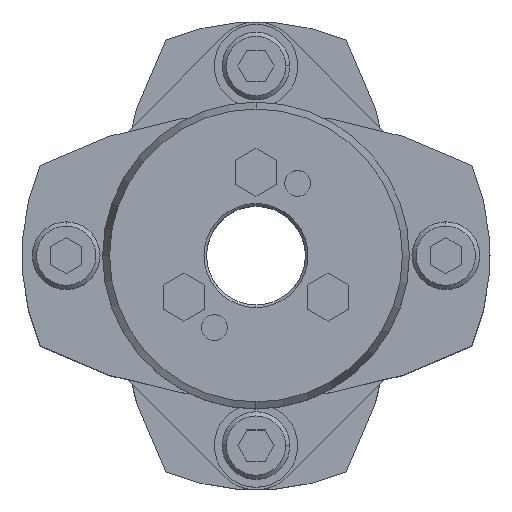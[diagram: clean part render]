
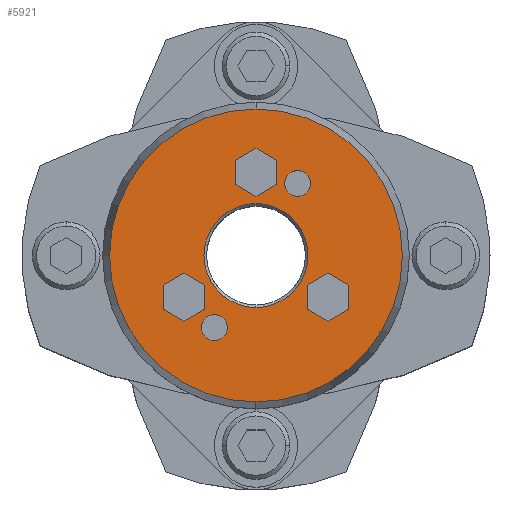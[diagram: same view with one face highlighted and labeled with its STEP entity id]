
A CAD part, top view. The second image highlights one B-rep face of the part: STEP entity #5921.
In plain terms, the highlighted planar face has unit normal (0, 0, 1).
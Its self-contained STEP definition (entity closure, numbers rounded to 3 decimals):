
#1677=CARTESIAN_POINT('',(0.,10.,52.0));
#1678=VERTEX_POINT('',#1677);
#1694=CARTESIAN_POINT('',(0.,-10.,52.0));
#1695=VERTEX_POINT('',#1694);
#1702=CARTESIAN_POINT('',(0.,0.,52.0));
#1703=DIRECTION('',(0.0,0.0,1.0));
#1704=DIRECTION('',(0.0,1.0,0.0));
#1705=AXIS2_PLACEMENT_3D('',#1702,#1703,#1704);
#1706=CIRCLE('',#1705,10.0);
#1707=EDGE_CURVE('',#1695,#1678,#1706,.T.);
#1865=CARTESIAN_POINT('',(0.,-28.16,52.0));
#1866=VERTEX_POINT('',#1865);
#1873=CARTESIAN_POINT('',(0.,28.16,52.0));
#1874=VERTEX_POINT('',#1873);
#1875=CARTESIAN_POINT('',(0.,0.,52.0));
#1876=DIRECTION('',(0.0,0.0,-1.0));
#1877=DIRECTION('',(0.0,-1.0,0.0));
#1878=AXIS2_PLACEMENT_3D('',#1875,#1876,#1877);
#1879=CIRCLE('',#1878,28.16);
#1880=EDGE_CURVE('',#1866,#1874,#1879,.T.);
#2123=CARTESIAN_POINT('',(8.,16.356,52.0));
#2124=VERTEX_POINT('',#2123);
#2140=CARTESIAN_POINT('',(8.,11.356,52.0));
#2141=VERTEX_POINT('',#2140);
#2148=CARTESIAN_POINT('',(8.,13.856,52.0));
#2149=DIRECTION('',(0.0,0.0,-1.0));
#2150=DIRECTION('',(0.0,1.0,0.0));
#2151=AXIS2_PLACEMENT_3D('',#2148,#2149,#2150);
#2152=CIRCLE('',#2151,2.5);
#2153=EDGE_CURVE('',#2124,#2141,#2152,.T.);
#2165=CARTESIAN_POINT('',(-8.,-11.356,52.0));
#2166=VERTEX_POINT('',#2165);
#2182=CARTESIAN_POINT('',(-8.,-16.356,52.0));
#2183=VERTEX_POINT('',#2182);
#2190=CARTESIAN_POINT('',(-8.,-13.856,52.0));
#2191=DIRECTION('',(0.0,0.0,-1.0));
#2192=DIRECTION('',(0.0,1.0,0.0));
#2193=AXIS2_PLACEMENT_3D('',#2190,#2191,#2192);
#2194=CIRCLE('',#2193,2.5);
#2195=EDGE_CURVE('',#2166,#2183,#2194,.T.);
#4437=CARTESIAN_POINT('',(13.856,-3.381,52.0));
#4438=VERTEX_POINT('',#4437);
#4445=CARTESIAN_POINT('',(9.856,-5.691,52.0));
#4446=VERTEX_POINT('',#4445);
#4447=CARTESIAN_POINT('',(9.856,-5.691,52.0));
#4448=DIRECTION('',(0.866,0.5,0.0));
#4449=VECTOR('',#4448,4.619);
#4450=LINE('',#4447,#4449);
#4451=EDGE_CURVE('',#4446,#4438,#4450,.T.);
#4475=CARTESIAN_POINT('',(17.856,-5.691,52.0));
#4476=VERTEX_POINT('',#4475);
#4483=CARTESIAN_POINT('',(13.856,-3.381,52.0));
#4484=DIRECTION('',(0.866,-0.5,0.0));
#4485=VECTOR('',#4484,4.619);
#4486=LINE('',#4483,#4485);
#4487=EDGE_CURVE('',#4438,#4476,#4486,.T.);
#4506=CARTESIAN_POINT('',(17.856,-10.309,52.0));
#4507=VERTEX_POINT('',#4506);
#4514=CARTESIAN_POINT('',(17.856,-5.691,52.0));
#4515=DIRECTION('',(0.0,-1.0,0.0));
#4516=VECTOR('',#4515,4.619);
#4517=LINE('',#4514,#4516);
#4518=EDGE_CURVE('',#4476,#4507,#4517,.T.);
#4537=CARTESIAN_POINT('',(13.856,-12.619,52.0));
#4538=VERTEX_POINT('',#4537);
#4545=CARTESIAN_POINT('',(17.856,-10.309,52.0));
#4546=DIRECTION('',(-0.866,-0.5,0.0));
#4547=VECTOR('',#4546,4.619);
#4548=LINE('',#4545,#4547);
#4549=EDGE_CURVE('',#4507,#4538,#4548,.T.);
#4568=CARTESIAN_POINT('',(9.856,-10.309,52.0));
#4569=VERTEX_POINT('',#4568);
#4576=CARTESIAN_POINT('',(13.856,-12.619,52.0));
#4577=DIRECTION('',(-0.866,0.5,0.0));
#4578=VECTOR('',#4577,4.619);
#4579=LINE('',#4576,#4578);
#4580=EDGE_CURVE('',#4538,#4569,#4579,.T.);
#4598=CARTESIAN_POINT('',(9.856,-10.309,52.0));
#4599=DIRECTION('',(0.0,1.0,0.0));
#4600=VECTOR('',#4599,4.619);
#4601=LINE('',#4598,#4600);
#4602=EDGE_CURVE('',#4569,#4446,#4601,.T.);
#4637=CARTESIAN_POINT('',(0.,20.619,52.0));
#4638=VERTEX_POINT('',#4637);
#4645=CARTESIAN_POINT('',(-4.,18.309,52.0));
#4646=VERTEX_POINT('',#4645);
#4647=CARTESIAN_POINT('',(-4.,18.309,52.0));
#4648=DIRECTION('',(0.866,0.5,0.0));
#4649=VECTOR('',#4648,4.619);
#4650=LINE('',#4647,#4649);
#4651=EDGE_CURVE('',#4646,#4638,#4650,.T.);
#4675=CARTESIAN_POINT('',(4.,18.309,52.0));
#4676=VERTEX_POINT('',#4675);
#4683=CARTESIAN_POINT('',(0.,20.619,52.0));
#4684=DIRECTION('',(0.866,-0.5,0.0));
#4685=VECTOR('',#4684,4.619);
#4686=LINE('',#4683,#4685);
#4687=EDGE_CURVE('',#4638,#4676,#4686,.T.);
#4706=CARTESIAN_POINT('',(4.,13.691,52.0));
#4707=VERTEX_POINT('',#4706);
#4714=CARTESIAN_POINT('',(4.,18.309,52.0));
#4715=DIRECTION('',(0.0,-1.0,0.0));
#4716=VECTOR('',#4715,4.619);
#4717=LINE('',#4714,#4716);
#4718=EDGE_CURVE('',#4676,#4707,#4717,.T.);
#4737=CARTESIAN_POINT('',(0.,11.381,52.0));
#4738=VERTEX_POINT('',#4737);
#4745=CARTESIAN_POINT('',(4.,13.691,52.0));
#4746=DIRECTION('',(-0.866,-0.5,0.0));
#4747=VECTOR('',#4746,4.619);
#4748=LINE('',#4745,#4747);
#4749=EDGE_CURVE('',#4707,#4738,#4748,.T.);
#4768=CARTESIAN_POINT('',(-4.,13.691,52.0));
#4769=VERTEX_POINT('',#4768);
#4776=CARTESIAN_POINT('',(0.,11.381,52.0));
#4777=DIRECTION('',(-0.866,0.5,0.0));
#4778=VECTOR('',#4777,4.619);
#4779=LINE('',#4776,#4778);
#4780=EDGE_CURVE('',#4738,#4769,#4779,.T.);
#4798=CARTESIAN_POINT('',(-4.,13.691,52.0));
#4799=DIRECTION('',(0.0,1.0,0.0));
#4800=VECTOR('',#4799,4.619);
#4801=LINE('',#4798,#4800);
#4802=EDGE_CURVE('',#4769,#4646,#4801,.T.);
#4837=CARTESIAN_POINT('',(-13.856,-3.381,52.0));
#4838=VERTEX_POINT('',#4837);
#4845=CARTESIAN_POINT('',(-17.856,-5.691,52.0));
#4846=VERTEX_POINT('',#4845);
#4847=CARTESIAN_POINT('',(-17.856,-5.691,52.0));
#4848=DIRECTION('',(0.866,0.5,0.0));
#4849=VECTOR('',#4848,4.619);
#4850=LINE('',#4847,#4849);
#4851=EDGE_CURVE('',#4846,#4838,#4850,.T.);
#4875=CARTESIAN_POINT('',(-9.856,-5.691,52.0));
#4876=VERTEX_POINT('',#4875);
#4883=CARTESIAN_POINT('',(-13.856,-3.381,52.0));
#4884=DIRECTION('',(0.866,-0.5,0.0));
#4885=VECTOR('',#4884,4.619);
#4886=LINE('',#4883,#4885);
#4887=EDGE_CURVE('',#4838,#4876,#4886,.T.);
#4906=CARTESIAN_POINT('',(-9.856,-10.309,52.0));
#4907=VERTEX_POINT('',#4906);
#4914=CARTESIAN_POINT('',(-9.856,-5.691,52.0));
#4915=DIRECTION('',(0.0,-1.0,0.0));
#4916=VECTOR('',#4915,4.619);
#4917=LINE('',#4914,#4916);
#4918=EDGE_CURVE('',#4876,#4907,#4917,.T.);
#4937=CARTESIAN_POINT('',(-13.856,-12.619,52.0));
#4938=VERTEX_POINT('',#4937);
#4945=CARTESIAN_POINT('',(-9.856,-10.309,52.0));
#4946=DIRECTION('',(-0.866,-0.5,0.0));
#4947=VECTOR('',#4946,4.619);
#4948=LINE('',#4945,#4947);
#4949=EDGE_CURVE('',#4907,#4938,#4948,.T.);
#4968=CARTESIAN_POINT('',(-17.856,-10.309,52.0));
#4969=VERTEX_POINT('',#4968);
#4976=CARTESIAN_POINT('',(-13.856,-12.619,52.0));
#4977=DIRECTION('',(-0.866,0.5,0.0));
#4978=VECTOR('',#4977,4.619);
#4979=LINE('',#4976,#4978);
#4980=EDGE_CURVE('',#4938,#4969,#4979,.T.);
#4998=CARTESIAN_POINT('',(-17.856,-10.309,52.0));
#4999=DIRECTION('',(0.0,1.0,0.0));
#5000=VECTOR('',#4999,4.619);
#5001=LINE('',#4998,#5000);
#5002=EDGE_CURVE('',#4969,#4846,#5001,.T.);
#5028=CARTESIAN_POINT('',(-8.,-13.856,52.0));
#5029=DIRECTION('',(0.0,0.0,-1.0));
#5030=DIRECTION('',(0.0,1.0,0.0));
#5031=AXIS2_PLACEMENT_3D('',#5028,#5029,#5030);
#5032=CIRCLE('',#5031,2.5);
#5033=EDGE_CURVE('',#2183,#2166,#5032,.T.);
#5062=CARTESIAN_POINT('',(8.,13.856,52.0));
#5063=DIRECTION('',(0.0,0.0,-1.0));
#5064=DIRECTION('',(0.0,1.0,0.0));
#5065=AXIS2_PLACEMENT_3D('',#5062,#5063,#5064);
#5066=CIRCLE('',#5065,2.5);
#5067=EDGE_CURVE('',#2141,#2124,#5066,.T.);
#5860=CARTESIAN_POINT('',(0.,0.,52.0));
#5861=DIRECTION('',(0.0,0.0,-1.0));
#5862=DIRECTION('',(0.0,-1.0,0.0));
#5863=AXIS2_PLACEMENT_3D('',#5860,#5861,#5862);
#5864=CIRCLE('',#5863,28.16);
#5865=EDGE_CURVE('',#1874,#1866,#5864,.T.);
#5870=CARTESIAN_POINT('',(0.,2.682,52.0));
#5871=DIRECTION('',(0.0,0.0,1.0));
#5872=DIRECTION('',(0.0,1.0,0.0));
#5873=AXIS2_PLACEMENT_3D('',#5870,#5871,#5872);
#5874=PLANE('',#5873);
#5875=ORIENTED_EDGE('',*,*,#5865,.F.);
#5876=ORIENTED_EDGE('',*,*,#1880,.F.);
#5877=EDGE_LOOP('',(#5875,#5876));
#5878=FACE_OUTER_BOUND('',#5877,.T.);
#5879=ORIENTED_EDGE('',*,*,#4451,.T.);
#5880=ORIENTED_EDGE('',*,*,#4487,.T.);
#5881=ORIENTED_EDGE('',*,*,#4518,.T.);
#5882=ORIENTED_EDGE('',*,*,#4549,.T.);
#5883=ORIENTED_EDGE('',*,*,#4580,.T.);
#5884=ORIENTED_EDGE('',*,*,#4602,.T.);
#5885=EDGE_LOOP('',(#5879,#5880,#5881,#5882,#5883,#5884));
#5886=FACE_BOUND('',#5885,.T.);
#5887=ORIENTED_EDGE('',*,*,#4651,.T.);
#5888=ORIENTED_EDGE('',*,*,#4687,.T.);
#5889=ORIENTED_EDGE('',*,*,#4718,.T.);
#5890=ORIENTED_EDGE('',*,*,#4749,.T.);
#5891=ORIENTED_EDGE('',*,*,#4780,.T.);
#5892=ORIENTED_EDGE('',*,*,#4802,.T.);
#5893=EDGE_LOOP('',(#5887,#5888,#5889,#5890,#5891,#5892));
#5894=FACE_BOUND('',#5893,.T.);
#5895=ORIENTED_EDGE('',*,*,#4851,.T.);
#5896=ORIENTED_EDGE('',*,*,#4887,.T.);
#5897=ORIENTED_EDGE('',*,*,#4918,.T.);
#5898=ORIENTED_EDGE('',*,*,#4949,.T.);
#5899=ORIENTED_EDGE('',*,*,#4980,.T.);
#5900=ORIENTED_EDGE('',*,*,#5002,.T.);
#5901=EDGE_LOOP('',(#5895,#5896,#5897,#5898,#5899,#5900));
#5902=FACE_BOUND('',#5901,.T.);
#5903=ORIENTED_EDGE('',*,*,#2195,.T.);
#5904=ORIENTED_EDGE('',*,*,#5033,.T.);
#5905=EDGE_LOOP('',(#5903,#5904));
#5906=FACE_BOUND('',#5905,.T.);
#5907=ORIENTED_EDGE('',*,*,#2153,.T.);
#5908=ORIENTED_EDGE('',*,*,#5067,.T.);
#5909=EDGE_LOOP('',(#5907,#5908));
#5910=FACE_BOUND('',#5909,.T.);
#5911=ORIENTED_EDGE('',*,*,#1707,.F.);
#5912=CARTESIAN_POINT('',(0.,0.,52.0));
#5913=DIRECTION('',(0.0,0.0,1.0));
#5914=DIRECTION('',(0.0,1.0,0.0));
#5915=AXIS2_PLACEMENT_3D('',#5912,#5913,#5914);
#5916=CIRCLE('',#5915,10.0);
#5917=EDGE_CURVE('',#1678,#1695,#5916,.T.);
#5918=ORIENTED_EDGE('',*,*,#5917,.F.);
#5919=EDGE_LOOP('',(#5911,#5918));
#5920=FACE_BOUND('',#5919,.T.);
#5921=ADVANCED_FACE('',(#5878,#5886,#5894,#5902,#5906,#5910,#5920),#5874,.T.);
